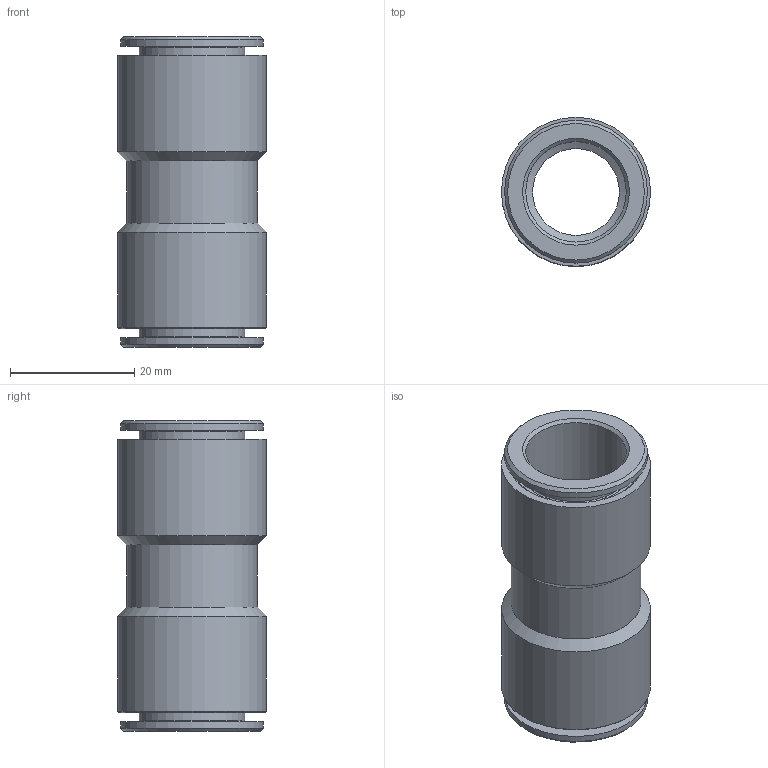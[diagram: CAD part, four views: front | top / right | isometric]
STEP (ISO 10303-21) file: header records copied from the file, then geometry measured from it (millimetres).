
FILE_DESCRIPTION(/* description */ (''),/* implementation_level */ '2;1');
FILE_NAME(/* name */ 'V200313_IPSO_03_16_08.02.17',/* time_stamp */ '2017-02-08T09:39:11+01:00',/* author */ (''),/* organization */ (''),/* preprocessor_version */ 'ST-DEVELOPER v16.5',/* originating_system */ 'HiCAD 2016 2102.0 Build 402',/* authorisation */ '');
FILE_SCHEMA (('AUTOMOTIVE_DESIGN { 1 0 10303 214 1 1 1 1 }'));
Length unit declared in the file: millimetre
Products named in the file (4): Root; DR16; 02_R200313
Assembly tree (3 placements, depth 2):
  Root
    DR16
    DR16
    02_R200313
Bounding box: 24 x 24 x 50 mm (x, y, z)
Volume: 7805.9 mm3; surface area: 10820.9 mm2
Topology: 3 solids, 3 shells, 56 faces, 101 edges, 60 vertices
Faces by surface type: cylinder 20, plane 15, cone 15, torus 6
Full cylindrical faces by diameter (mm): 13.999 x1, 16.2 x4, 17 x2, 17.2 x2, 18.7 x1, 20.2 x2, 20.4 x2, 20.999 x1, 21.2 x1, 23 x2, 24 x2
Entity records: 1778 total; most frequent: DIRECTION 236, CARTESIAN_POINT 174, AXIS2_PLACEMENT_3D 118, PRESENTATION_STYLE_ASSIGNMENT 115, COLOUR_RGB 113, DRAUGHTING_PRE_DEFINED_CURVE_FONT 112, CURVE_STYLE 112, OVER_RIDING_STYLED_ITEM 112
